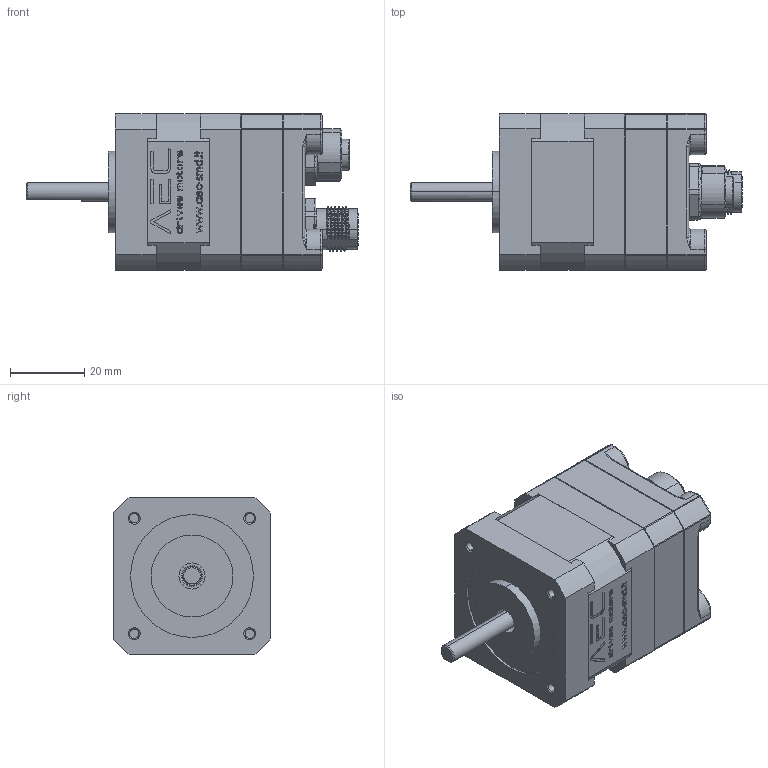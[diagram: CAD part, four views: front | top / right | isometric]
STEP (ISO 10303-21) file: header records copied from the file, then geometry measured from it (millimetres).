
FILE_DESCRIPTION (( 'STEP AP214' ), '1' );
FILE_NAME ('M42SH33-TO0512P24C.STEP', '2025-05-17T07:34:41', ( '' ), ( '' ), 'SwSTEP 2.0', 'SolidWorks 2019', '' );
FILE_SCHEMA (( 'AUTOMOTIVE_DESIGN' ));
Length unit declared in the file: millimetre
Products named in the file (1): M42SH33-TO0512P24C
Bounding box: 89.14 x 42 x 42 mm (x, y, z)
Volume: 45220 mm3; surface area: 45467.6 mm2
Topology: 32 solids, 32 shells, 4129 faces, 10521 edges, 6650 vertices
Faces by surface type: plane 1718, cylinder 879, bspline 827, torus 478, cone 185, sphere 42
Entity records: 229030 total; most frequent: CARTESIAN_POINT 92530, ORIENTED_EDGE 20898, DIRECTION 17981, EDGE_CURVE 10449, VERTEX_POINT 6650, AXIS2_PLACEMENT_3D 6293, LINE 5395, VECTOR 5395
